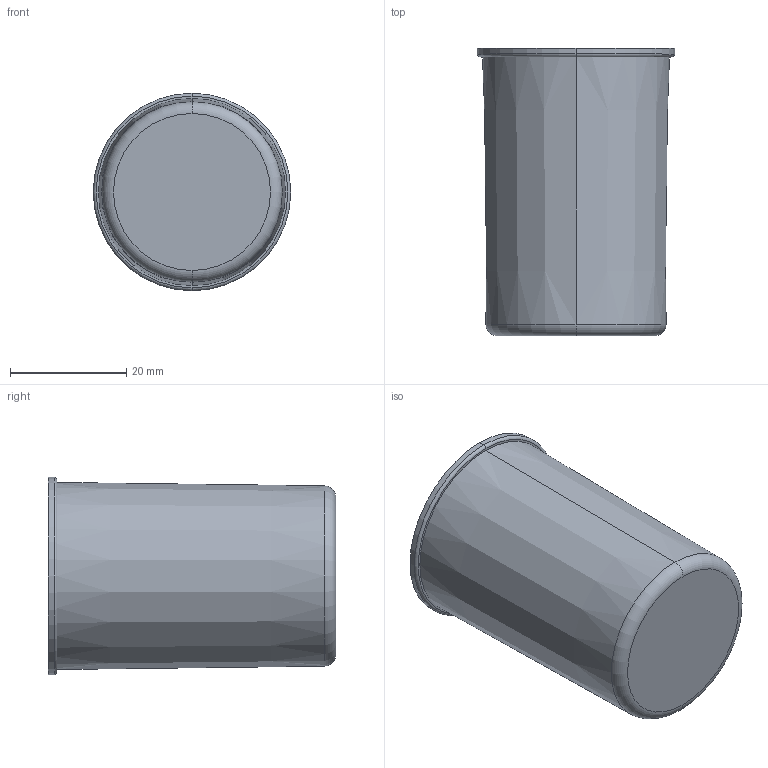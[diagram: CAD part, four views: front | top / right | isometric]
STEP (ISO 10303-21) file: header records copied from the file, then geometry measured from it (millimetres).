
FILE_DESCRIPTION (( 'STEP AP203' ), '1' );
FILE_NAME ('Filmdose.STEP', '2020-12-15T00:53:21', ( '' ), ( '' ), 'SwSTEP 2.0', 'SolidWorks 2017', '' );
FILE_SCHEMA (( 'CONFIG_CONTROL_DESIGN' ));
Length unit declared in the file: millimetre
Products named in the file (1): Filmdose
Bounding box: 34 x 49.5 x 34 mm (x, y, z)
Volume: 5379.1 mm3; surface area: 10936.6 mm2
Topology: 1 solids, 1 shells, 18 faces, 34 edges, 20 vertices
Faces by surface type: torus 6, cone 6, plane 4, cylinder 2
Entity records: 537 total; most frequent: DIRECTION 98, CARTESIAN_POINT 73, ORIENTED_EDGE 68, AXIS2_PLACEMENT_3D 45, EDGE_CURVE 34, CIRCLE 26, EDGE_LOOP 20, VERTEX_POINT 20
